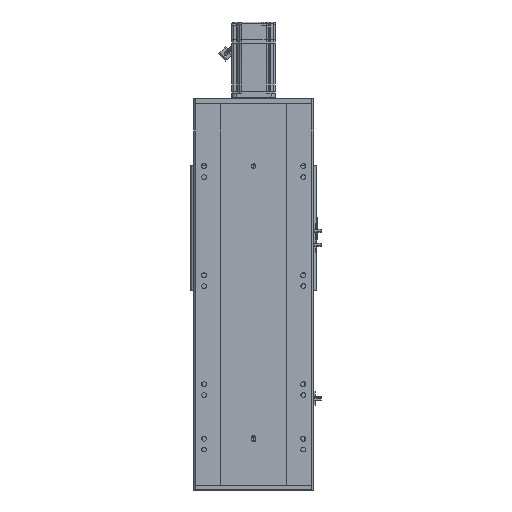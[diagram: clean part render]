
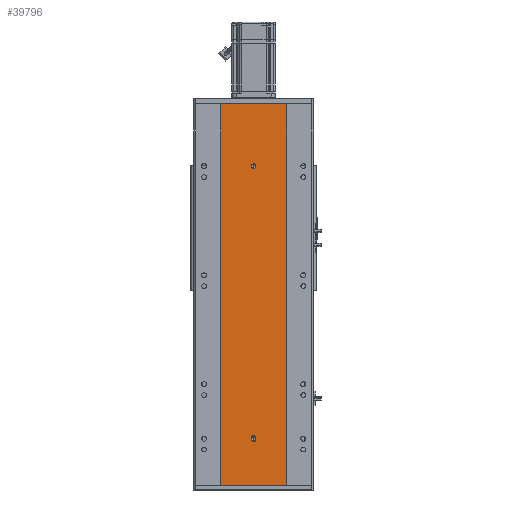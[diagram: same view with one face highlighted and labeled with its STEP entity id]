
A CAD part, front view. The second image highlights one B-rep face of the part: STEP entity #39796.
In plain terms, the highlighted planar face has unit normal (0, -1, 0).
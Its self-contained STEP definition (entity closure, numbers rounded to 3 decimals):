
#1098 = DIRECTION ( 'NONE',  ( 0., -1., 0. ) ) ;
#2368 = CIRCLE ( 'NONE', #48737, 4. ) ;
#4374 = CARTESIAN_POINT ( 'NONE',  ( -60., 0., 0. ) ) ;
#4797 = CARTESIAN_POINT ( 'NONE',  ( 0., 0., 87.5 ) ) ;
#5328 = CARTESIAN_POINT ( 'NONE',  ( -4., 0., 87.5 ) ) ;
#6314 = LINE ( 'NONE', #40880, #56625 ) ;
#6592 = AXIS2_PLACEMENT_3D ( 'NONE', #7962, #50661, #55672 ) ;
#7962 = CARTESIAN_POINT ( 'NONE',  ( 0., 0., 84.5 ) ) ;
#8783 = PLANE ( 'NONE',  #52932 ) ;
#8995 = VERTEX_POINT ( 'NONE', #5328 ) ;
#10686 = CIRCLE ( 'NONE', #62859, 4. ) ;
#10929 = EDGE_CURVE ( 'NONE', #8995, #52064, #37236, .T. ) ;
#11952 = VERTEX_POINT ( 'NONE', #32508 ) ;
#14127 = AXIS2_PLACEMENT_3D ( 'NONE', #49051, #60050, #65307 ) ;
#14787 = VERTEX_POINT ( 'NONE', #40543 ) ;
#15562 = VERTEX_POINT ( 'NONE', #4374 ) ;
#16894 = LINE ( 'NONE', #23554, #40941 ) ;
#18151 = VECTOR ( 'NONE', #23901, 1000. ) ;
#18599 = CARTESIAN_POINT ( 'NONE',  ( -60., 0., 0. ) ) ;
#19127 = DIRECTION ( 'NONE',  ( 0., 1., 0. ) ) ;
#19217 = ORIENTED_EDGE ( 'NONE', *, *, #47913, .F. ) ;
#19494 = FACE_BOUND ( 'NONE', #50773, .T. ) ;
#22105 = DIRECTION ( 'NONE',  ( 0., 0., -1. ) ) ;
#23554 = CARTESIAN_POINT ( 'NONE',  ( -60., 0., 700. ) ) ;
#23613 = CARTESIAN_POINT ( 'NONE',  ( 0., 0., 586. ) ) ;
#23901 = DIRECTION ( 'NONE',  ( 0., 0., -1. ) ) ;
#24726 = DIRECTION ( 'NONE',  ( 0., 0., 1. ) ) ;
#25844 = ORIENTED_EDGE ( 'NONE', *, *, #66535, .F. ) ;
#26940 = VECTOR ( 'NONE', #22105, 1000. ) ;
#27113 = ORIENTED_EDGE ( 'NONE', *, *, #40727, .F. ) ;
#27496 = CARTESIAN_POINT ( 'NONE',  ( 60., 0., 700. ) ) ;
#27635 = CIRCLE ( 'NONE', #14127, 4. ) ;
#27820 = FACE_OUTER_BOUND ( 'NONE', #40210, .T. ) ;
#29237 = EDGE_LOOP ( 'NONE', ( #53192, #47647 ) ) ;
#29327 = VERTEX_POINT ( 'NONE', #62866 ) ;
#31021 = CIRCLE ( 'NONE', #35617, 4. ) ;
#31090 = ORIENTED_EDGE ( 'NONE', *, *, #60955, .T. ) ;
#31440 = CARTESIAN_POINT ( 'NONE',  ( 4., 0., 87.5 ) ) ;
#32508 = CARTESIAN_POINT ( 'NONE',  ( 4., 0., 84.5 ) ) ;
#33311 = ORIENTED_EDGE ( 'NONE', *, *, #67701, .F. ) ;
#33701 = CARTESIAN_POINT ( 'NONE',  ( -4., 0., 84.5 ) ) ;
#34143 = CARTESIAN_POINT ( 'NONE',  ( 0., 0., 80.5 ) ) ;
#34739 = CARTESIAN_POINT ( 'NONE',  ( -4., 0., 84.5 ) ) ;
#35294 = VERTEX_POINT ( 'NONE', #34143 ) ;
#35617 = AXIS2_PLACEMENT_3D ( 'NONE', #4797, #57312, #41708 ) ;
#37236 = LINE ( 'NONE', #34739, #18151 ) ;
#39796 = ADVANCED_FACE ( 'NONE', ( #41860, #19494, #27820 ), #8783, .F. ) ;
#40196 = LINE ( 'NONE', #42884, #26940 ) ;
#40210 = EDGE_LOOP ( 'NONE', ( #58708, #19217, #41427, #31090 ) ) ;
#40543 = CARTESIAN_POINT ( 'NONE',  ( -60., 0., 700. ) ) ;
#40727 = EDGE_CURVE ( 'NONE', #52064, #35294, #57476, .T. ) ;
#40880 = CARTESIAN_POINT ( 'NONE',  ( 4., 0., 84.5 ) ) ;
#40941 = VECTOR ( 'NONE', #49166, 1000. ) ;
#41427 = ORIENTED_EDGE ( 'NONE', *, *, #42639, .F. ) ;
#41708 = DIRECTION ( 'NONE',  ( 0., 0., -1. ) ) ;
#41860 = FACE_BOUND ( 'NONE', #29237, .T. ) ;
#42013 = EDGE_CURVE ( 'NONE', #63095, #67041, #27635, .T. ) ;
#42639 = EDGE_CURVE ( 'NONE', #14787, #60802, #67904, .T. ) ;
#42858 = VERTEX_POINT ( 'NONE', #31440 ) ;
#42884 = CARTESIAN_POINT ( 'NONE',  ( 60., 0., 700. ) ) ;
#44567 = CARTESIAN_POINT ( 'NONE',  ( 0., 0., 582. ) ) ;
#45531 = CARTESIAN_POINT ( 'NONE',  ( -60., 0., 700. ) ) ;
#45939 = CARTESIAN_POINT ( 'NONE',  ( -60., 0., 700. ) ) ;
#46014 = EDGE_CURVE ( 'NONE', #67041, #63095, #10686, .T. ) ;
#46471 = CARTESIAN_POINT ( 'NONE',  ( 0., 0., 590. ) ) ;
#47647 = ORIENTED_EDGE ( 'NONE', *, *, #46014, .F. ) ;
#47913 = EDGE_CURVE ( 'NONE', #60802, #29327, #40196, .T. ) ;
#48737 = AXIS2_PLACEMENT_3D ( 'NONE', #63720, #1098, #52957 ) ;
#49051 = CARTESIAN_POINT ( 'NONE',  ( 0., 0., 586. ) ) ;
#49166 = DIRECTION ( 'NONE',  ( 0., 0., -1. ) ) ;
#50661 = DIRECTION ( 'NONE',  ( 0., -1., 0. ) ) ;
#50773 = EDGE_LOOP ( 'NONE', ( #33311, #25844, #27113, #54256, #52247 ) ) ;
#50852 = DIRECTION ( 'NONE',  ( 1., 0., 0. ) ) ;
#51653 = LINE ( 'NONE', #18599, #60672 ) ;
#52064 = VERTEX_POINT ( 'NONE', #33701 ) ;
#52247 = ORIENTED_EDGE ( 'NONE', *, *, #57094, .F. ) ;
#52932 = AXIS2_PLACEMENT_3D ( 'NONE', #45939, #19127, #24726 ) ;
#52957 = DIRECTION ( 'NONE',  ( 0., 0., -1. ) ) ;
#53192 = ORIENTED_EDGE ( 'NONE', *, *, #42013, .F. ) ;
#54256 = ORIENTED_EDGE ( 'NONE', *, *, #10929, .F. ) ;
#55379 = DIRECTION ( 'NONE',  ( 0., -1., 0. ) ) ;
#55514 = DIRECTION ( 'NONE',  ( 1., 0., 0. ) ) ;
#55672 = DIRECTION ( 'NONE',  ( 0., 0., -1. ) ) ;
#56625 = VECTOR ( 'NONE', #62446, 1000. ) ;
#56881 = EDGE_CURVE ( 'NONE', #15562, #29327, #51653, .T. ) ;
#57094 = EDGE_CURVE ( 'NONE', #42858, #8995, #31021, .T. ) ;
#57312 = DIRECTION ( 'NONE',  ( 0., -1., 0. ) ) ;
#57476 = CIRCLE ( 'NONE', #6592, 4. ) ;
#58708 = ORIENTED_EDGE ( 'NONE', *, *, #56881, .T. ) ;
#60050 = DIRECTION ( 'NONE',  ( 0., -1., 0. ) ) ;
#60672 = VECTOR ( 'NONE', #55514, 1000. ) ;
#60802 = VERTEX_POINT ( 'NONE', #27496 ) ;
#60955 = EDGE_CURVE ( 'NONE', #14787, #15562, #16894, .T. ) ;
#61347 = DIRECTION ( 'NONE',  ( 0., 0., -1. ) ) ;
#62446 = DIRECTION ( 'NONE',  ( 0., 0., 1. ) ) ;
#62859 = AXIS2_PLACEMENT_3D ( 'NONE', #23613, #55379, #61347 ) ;
#62866 = CARTESIAN_POINT ( 'NONE',  ( 60., 0., 0. ) ) ;
#63095 = VERTEX_POINT ( 'NONE', #44567 ) ;
#63720 = CARTESIAN_POINT ( 'NONE',  ( 0., 0., 84.5 ) ) ;
#64587 = VECTOR ( 'NONE', #50852, 1000. ) ;
#65307 = DIRECTION ( 'NONE',  ( 0., 0., -1. ) ) ;
#66535 = EDGE_CURVE ( 'NONE', #35294, #11952, #2368, .T. ) ;
#67041 = VERTEX_POINT ( 'NONE', #46471 ) ;
#67701 = EDGE_CURVE ( 'NONE', #11952, #42858, #6314, .T. ) ;
#67904 = LINE ( 'NONE', #45531, #64587 ) ;
